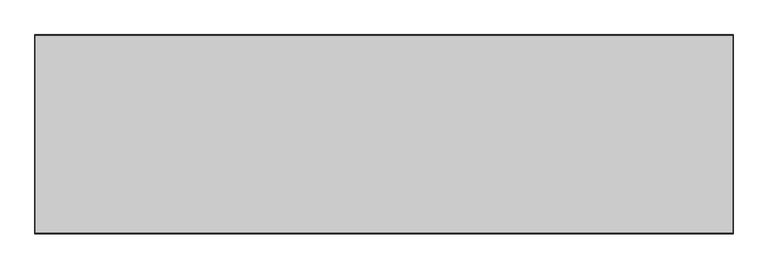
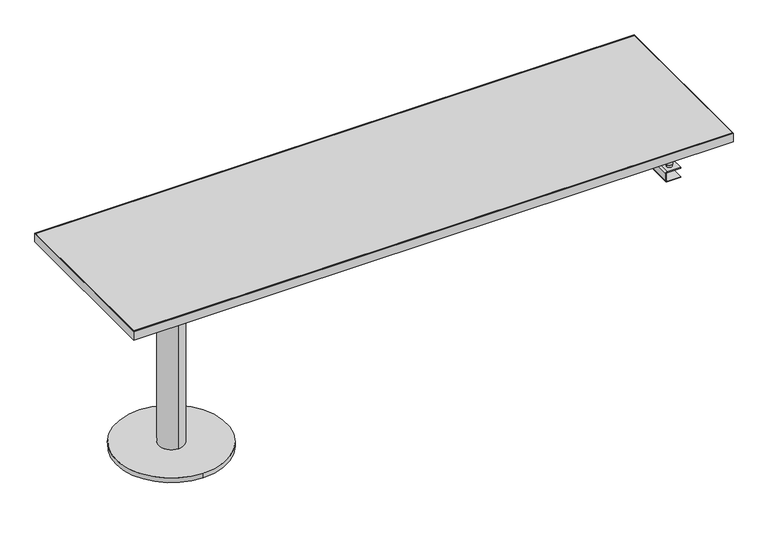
"""IFC4 building model written with IfcOpenShell, lengths in millimetres: furniture geometry, Steelcase Coalesse - Topo - Desktop - Freestanding Straight Ancillary : 84W x 24D - Left - Flat Edge."""

from ifc_helpers import new_model, si_unit, frame, origin, place, context, project, spatial, polyline, circle_curve, outline, extrude, source, transform, mapped, element, save
from ifc_brep_helpers import plane_surface, cylinder_surface, revolved_surface, advanced_brep


def furniture_b3126ded(model_context):
    return source(origin(), model_context, "Body", "SolidModel", [
        advanced_brep(
        [(309.626, -501.6500363, 16.8148), (309.626, -107.9500363, 16.8148), (309.626, -260.3500363, 16.8148), (309.626, -349.2500363, 16.8148), (309.626, -501.6500363, 0.0), (309.626, -107.9500363, 0.0), (309.626, -349.2500363, 635.0), (309.626, -260.3500363, 635.0), (309.626, -269.8509568, 635.0), (309.626, -339.7491159, 635.0), (309.626, -339.7491159, 688.975), (309.626, -269.8509568, 688.975), (411.2261938, -203.2000242, 692.15), (208.0258062, -203.2000242, 692.15), (208.0258062, -406.4000484, 692.15), (411.2261938, -406.4000484, 692.15), (411.2261938, -203.2000242, 688.975), (411.2261938, -406.4000484, 688.975), (208.0258062, -406.4000484, 688.975), (208.0258062, -203.2000242, 688.975)],
        [
            (0, 1, circle_curve(frame((309.626, -304.8000363, 16.8148), z_axis=(0.0, 0.0, 1.0), x_axis=(0.0, 1.0, 0.0)), 196.85)),
            (1, 0, circle_curve(frame((309.626, -304.8000363, 16.8148), z_axis=(0.0, 0.0, 1.0), x_axis=(0.0, 1.0, 0.0)), 196.85)),
            (2, 3, circle_curve(frame((309.626, -304.8000363, 16.8148), z_axis=(0.0, 0.0, -1.0), x_axis=(0.0, 1.0, 0.0)), 44.45)),
            (3, 2, circle_curve(frame((309.626, -304.8000363, 16.8148), z_axis=(0.0, 0.0, -1.0), x_axis=(0.0, 1.0, 0.0)), 44.45)),
            (4, 5, circle_curve(frame((309.626, -304.8000363, 0.0), z_axis=(0.0, 0.0, -1.0), x_axis=(0.0, 1.0, 0.0)), 196.85)),
            (5, 4, circle_curve(frame((309.626, -304.8000363, 0.0), z_axis=(0.0, 0.0, -1.0), x_axis=(0.0, 1.0, 0.0)), 196.85)),
            (0, 4),
            (5, 1),
            (6, 7, circle_curve(frame((309.626, -304.8000363, 635.0), z_axis=(0.0, 0.0, 1.0), x_axis=(0.0, 1.0, 0.0)), 44.45)),
            (7, 6, circle_curve(frame((309.626, -304.8000363, 635.0), z_axis=(0.0, 0.0, 1.0), x_axis=(0.0, 1.0, 0.0)), 44.45)),
            (8, 9, circle_curve(frame((309.626, -304.8000363, 635.0), z_axis=(0.0, 0.0, -1.0), x_axis=(0.0, 1.0, 0.0)), 34.9490796)),
            (9, 8, circle_curve(frame((309.626, -304.8000363, 635.0), z_axis=(0.0, 0.0, -1.0), x_axis=(0.0, 1.0, 0.0)), 34.9490796)),
            (6, 3),
            (2, 7),
            (10, 9),
            (8, 11),
            (11, 10, circle_curve(frame((309.626, -304.8000363, 688.975), z_axis=(0.0, 0.0, -1.0), x_axis=(0.0, 1.0, 0.0)), 34.9490796)),
            (10, 11, circle_curve(frame((309.626, -304.8000363, 688.975), z_axis=(0.0, 0.0, -1.0), x_axis=(0.0, 1.0, 0.0)), 34.9490796)),
            (12, 13),
            (13, 14),
            (14, 15),
            (15, 12),
            (16, 17),
            (17, 18),
            (18, 19),
            (19, 16),
            (12, 16),
            (19, 13),
            (18, 14),
            (17, 15),
        ],
        [
            plane_surface(frame((309.626, -107.9500363, 16.8148), z_axis=(0.0, 0.0, 1.0), x_axis=(-1.0, 0.0, 0.0))),
            plane_surface(frame((309.626, -107.9500363, 0.0), z_axis=(0.0, 0.0, -1.0), x_axis=(1.0, 0.0, 0.0))),
            cylinder_surface(frame((309.626, -304.8000363, 0.0), z_axis=(0.0, 0.0, 1.0), x_axis=(0.0, 1.0, 0.0)), 196.85),
            plane_surface(frame((309.626, -260.3500363, 635.0), z_axis=(0.0, 0.0, 1.0), x_axis=(-1.0, 0.0, 0.0))),
            cylinder_surface(frame((309.626, -304.8000363, 0.0), z_axis=(0.0, 0.0, 1.0), x_axis=(0.0, 1.0, 0.0)), 44.45),
            cylinder_surface(frame((309.626, -304.8000363, 635.0), z_axis=(0.0, 0.0, 1.0), x_axis=(0.0, 1.0, 0.0)), 34.9490796),
            plane_surface(frame((208.0258062, -203.2000242, 692.15), z_axis=(0.0, 0.0, 1.0), x_axis=(-1.0, 0.0, 0.0))),
            plane_surface(frame((208.0258062, -203.2000242, 688.975), z_axis=(0.0, 0.0, -1.0), x_axis=(1.0, 0.0, 0.0))),
            plane_surface(frame((411.2261938, -203.2000242, 692.15), z_axis=(0.0, 1.0, 0.0), x_axis=(0.0, 0.0, -1.0))),
            plane_surface(frame((208.0258062, -203.2000242, 692.15), z_axis=(-1.0, 0.0, 0.0), x_axis=(0.0, 0.0, -1.0))),
            plane_surface(frame((208.0258062, -406.4000484, 692.15), z_axis=(0.0, -1.0, 0.0), x_axis=(0.0, 0.0, -1.0))),
            plane_surface(frame((411.2261938, -406.4000484, 692.15), z_axis=(1.0, 0.0, 0.0), x_axis=(0.0, 0.0, -1.0))),
        ],
        [
            (0, [[1, 2], [3, 4]]),
            (1, [[5, 6]]),
            (2, [[-1, 7, -6, 8]]),
            (2, [[-2, -8, -5, -7]]),
            (3, [[9, 10], [11, 12]]),
            (4, [[-9, 13, -3, 14]]),
            (4, [[-10, -14, -4, -13]]),
            (5, [[15, -11, 16, 17]]),
            (5, [[-15, 18, -16, -12]]),
            (6, [[19, 20, 21, 22]]),
            (7, [[23, 24, 25, 26], [-17, -18]]),
            (8, [[-19, 27, -26, 28]]),
            (9, [[-20, -28, -25, 29]]),
            (10, [[-21, -29, -24, 30]]),
            (11, [[-22, -30, -23, -27]]),
        ],
    ),
        extrude(outline(polyline([(2132.583783, -3.1750242), (2132.583783, -606.4250484), (1.016217, -606.4250484), (1.016217, -3.1750242), (2132.583783, -3.1750242)])), frame((0.0, 0.0, 692.15), z_axis=(0.0, 0.0, 1.0), x_axis=(1.0, 0.0, 0.0)), (0.0, 0.0, 1.0), 31.75),
        extrude(outline(polyline([(2133.6, 0.0), (2133.6, -609.6), (0.0, -609.6), (0.0, 0.0), (2133.6, 0.0)]), holes=[polyline([(2132.583783, -3.1750242), (1.016217, -3.1750242), (1.016217, -606.4250484), (2132.583783, -606.4250484), (2132.583783, -3.1750242)])]), frame((0.0, 0.0, 692.15), z_axis=(0.0, 0.0, 1.0), x_axis=(1.0, 0.0, 0.0)), (0.0, 0.0, 1.0), 31.75),
        extrude(outline(polyline([(-109.2200048, 691.1168589), (-127.2794, 691.1168589), (-127.2794, 682.2694), (-171.1706, 682.2694), (-171.1706, 691.1168589), (-189.2300194, 691.1168589), (-189.2300194, 692.15), (-170.18, 692.15), (-170.18, 683.304655), (-128.27, 683.304655), (-128.27, 692.15), (-109.2200048, 692.15), (-109.2200048, 691.1168589)])), frame((57.0738, 0.0, 0.0), z_axis=(1.0, 0.0, 0.0), x_axis=(0.0, 1.0, 0.0)), (0.0, 0.0, 1.0), 2019.4523581),
        extrude(outline(polyline([(-564.8960426, 691.1168589), (-564.8960426, 692.15), (-545.8460475, 692.15), (-545.8460475, 683.304655), (-503.9360475, 683.304655), (-503.9360475, 692.15), (-484.8860281, 692.15), (-484.8860281, 691.1168589), (-502.9454475, 691.1168589), (-502.9454475, 682.2694), (-546.8366475, 682.2694), (-546.8366475, 691.1168589), (-564.8960426, 691.1168589)])), frame((57.0738, 0.0, 0.0), z_axis=(1.0, 0.0, 0.0), x_axis=(0.0, 1.0, 0.0)), (0.0, 0.0, 1.0), 2019.4523581),
        advanced_brep(
        [(2025.6500969, -267.5128138, 692.15), (1962.1499031, -267.5128138, 692.15), (1962.1499031, -331.0127895, 692.15), (2025.6500969, -331.0127895, 692.15), (2025.6500969, -267.5128138, 688.975), (2025.6500969, -331.0127895, 688.975), (1962.1499031, -331.0127895, 688.975), (1962.1499031, -267.5128138, 688.975), (1993.9, -318.3128016, 688.975), (1993.9, -280.2128016, 688.975), (1993.9, -318.3128016, 655.6248), (1993.9, -280.2128016, 655.6248), (1993.9, -310.4626736, 655.6248), (1993.9, -288.0629297, 655.6248), (1993.9, -310.4626736, 621.2586), (1993.9, -288.0629297, 621.2586), (1993.9, -314.5105403, 621.2586), (1993.9, -284.015063, 621.2586), (1993.9, -314.5105403, 615.1626), (1993.9, -284.015063, 615.1626), (1993.9, -311.9628016, 615.1626), (1993.9, -286.5628016, 615.1626), (1993.9, -311.9628016, 609.4984), (1993.9, -286.5628016, 609.4984)],
        [
            (0, 1),
            (1, 2),
            (2, 3),
            (3, 0),
            (4, 5),
            (5, 6),
            (6, 7),
            (7, 4),
            (8, 9, circle_curve(frame((1993.9, -299.2628016, 688.975), z_axis=(0.0, 0.0, 1.0), x_axis=(0.0, 1.0, 0.0)), 19.05)),
            (9, 8, circle_curve(frame((1993.9, -299.2628016, 688.975), z_axis=(0.0, 0.0, 1.0), x_axis=(0.0, 1.0, 0.0)), 19.05)),
            (0, 4),
            (7, 1),
            (6, 2),
            (5, 3),
            (10, 11, circle_curve(frame((1993.9, -299.2628016, 655.6248), z_axis=(0.0, 0.0, -1.0), x_axis=(0.0, 1.0, 0.0)), 19.05)),
            (11, 10, circle_curve(frame((1993.9, -299.2628016, 655.6248), z_axis=(0.0, 0.0, -1.0), x_axis=(0.0, 1.0, 0.0)), 19.05)),
            (12, 13, circle_curve(frame((1993.9, -299.2628016, 655.6248), z_axis=(0.0, 0.0, 1.0), x_axis=(0.0, 1.0, 0.0)), 11.1998719)),
            (13, 12, circle_curve(frame((1993.9, -299.2628016, 655.6248), z_axis=(0.0, 0.0, 1.0), x_axis=(0.0, 1.0, 0.0)), 11.1998719)),
            (11, 9),
            (8, 10),
            (12, 14),
            (14, 15, circle_curve(frame((1993.9, -299.2628016, 621.2586), z_axis=(0.0, 0.0, 1.0), x_axis=(0.0, 1.0, 0.0)), 11.1998719)),
            (15, 13),
            (15, 14, circle_curve(frame((1993.9, -299.2628016, 621.2586), z_axis=(0.0, 0.0, 1.0), x_axis=(0.0, 1.0, 0.0)), 11.1998719)),
            (16, 17, circle_curve(frame((1993.9, -299.2628016, 621.2586), z_axis=(0.0, 0.0, 1.0), x_axis=(0.0, 1.0, 0.0)), 15.2477387)),
            (17, 16, circle_curve(frame((1993.9, -299.2628016, 621.2586), z_axis=(0.0, 0.0, 1.0), x_axis=(0.0, 1.0, 0.0)), 15.2477387)),
            (18, 19, circle_curve(frame((1993.9, -299.2628016, 615.1626), z_axis=(0.0, 0.0, -1.0), x_axis=(0.0, 1.0, 0.0)), 15.2477387)),
            (19, 18, circle_curve(frame((1993.9, -299.2628016, 615.1626), z_axis=(0.0, 0.0, -1.0), x_axis=(0.0, 1.0, 0.0)), 15.2477387)),
            (20, 21, circle_curve(frame((1993.9, -299.2628016, 615.1626), z_axis=(0.0, 0.0, 1.0), x_axis=(0.0, 1.0, 0.0)), 12.7)),
            (21, 20, circle_curve(frame((1993.9, -299.2628016, 615.1626), z_axis=(0.0, 0.0, 1.0), x_axis=(0.0, 1.0, 0.0)), 12.7)),
            (16, 18),
            (19, 17),
            (22, 23, circle_curve(frame((1993.9, -299.2628016, 609.4984), z_axis=(0.0, 0.0, -1.0), x_axis=(0.0, 1.0, 0.0)), 12.7)),
            (23, 22, circle_curve(frame((1993.9, -299.2628016, 609.4984), z_axis=(0.0, 0.0, -1.0), x_axis=(0.0, 1.0, 0.0)), 12.7)),
            (23, 21),
            (20, 22),
        ],
        [
            plane_surface(frame((1962.1499031, -267.5128138, 692.15), z_axis=(0.0, 0.0, 1.0), x_axis=(-1.0, 0.0, 0.0))),
            plane_surface(frame((1962.1499031, -267.5128138, 688.975), z_axis=(0.0, 0.0, -1.0), x_axis=(1.0, 0.0, 0.0))),
            plane_surface(frame((2025.6500969, -267.5128138, 692.15), z_axis=(0.0, 1.0, 0.0), x_axis=(0.0, 0.0, -1.0))),
            plane_surface(frame((1962.1499031, -267.5128138, 692.15), z_axis=(-1.0, 0.0, 0.0), x_axis=(0.0, 0.0, -1.0))),
            plane_surface(frame((1962.1499031, -331.0127895, 692.15), z_axis=(0.0, -1.0, 0.0), x_axis=(0.0, 0.0, -1.0))),
            plane_surface(frame((2025.6500969, -331.0127895, 692.15), z_axis=(1.0, 0.0, 0.0), x_axis=(0.0, 0.0, -1.0))),
            plane_surface(frame((1993.9, -280.2128016, 655.6248), z_axis=(0.0, 0.0, -1.0), x_axis=(1.0, 0.0, 0.0))),
            cylinder_surface(frame((1993.9, -299.2628016, 655.6248), z_axis=(0.0, 0.0, 1.0), x_axis=(0.0, 1.0, 0.0)), 19.05),
            cylinder_surface(frame((1993.9, -299.2628016, 621.2586), z_axis=(0.0, 0.0, 1.0), x_axis=(0.0, 1.0, 0.0)), 11.1998719),
            plane_surface(frame((1993.9, -284.015063, 621.2586), z_axis=(0.0, 0.0, 1.0), x_axis=(-1.0, 0.0, 0.0))),
            plane_surface(frame((1993.9, -284.015063, 615.1626), z_axis=(0.0, 0.0, -1.0), x_axis=(1.0, 0.0, 0.0))),
            cylinder_surface(frame((1993.9, -299.2628016, 615.1626), z_axis=(0.0, 0.0, 1.0), x_axis=(0.0, 1.0, 0.0)), 15.2477387),
            plane_surface(frame((1993.9, -286.5628016, 609.4984), z_axis=(0.0, 0.0, -1.0), x_axis=(1.0, 0.0, 0.0))),
            cylinder_surface(frame((1993.9, -299.2628016, 609.4984), z_axis=(0.0, 0.0, 1.0), x_axis=(0.0, 1.0, 0.0)), 12.7),
        ],
        [
            (0, [[1, 2, 3, 4]]),
            (1, [[5, 6, 7, 8], [9, 10]]),
            (2, [[-1, 11, -8, 12]]),
            (3, [[-2, -12, -7, 13]]),
            (4, [[-3, -13, -6, 14]]),
            (5, [[-4, -14, -5, -11]]),
            (6, [[15, 16], [17, 18]]),
            (7, [[-16, 19, -9, 20]]),
            (7, [[-15, -20, -10, -19]]),
            (8, [[21, 22, 23, -17]]),
            (8, [[-21, -18, -23, 24]]),
            (9, [[25, 26], [-22, -24]]),
            (10, [[27, 28], [29, 30]]),
            (11, [[-25, 31, -28, 32]]),
            (11, [[-26, -32, -27, -31]]),
            (12, [[33, 34]]),
            (13, [[-34, 35, -29, 36]]),
            (13, [[-33, -36, -30, -35]]),
        ],
    ),
        advanced_brep(
        [(1933.0422055, -550.2910475, 612.0384), (1927.9622153, -550.2910475, 606.9584098), (1927.9622153, -550.2910475, 580.2884171), (1933.0422323, -550.2910475, 575.2084), (1981.3019827, -550.2910475, 575.2084), (1981.3019827, -550.2910475, 577.7484), (1933.0419827, -550.2910475, 577.7484), (1930.5021765, -550.2910475, 580.2882062), (1930.5021765, -550.2910475, 606.9584098), (1933.0421667, -550.2910475, 609.4984), (1981.3019827, -550.2910475, 609.4984), (1981.3019827, -550.2910475, 612.0384), (1933.0422055, -124.840999, 612.0384), (1981.3019827, -124.840999, 612.0384), (1981.3019827, -124.840999, 609.4984), (1933.0421667, -124.840999, 609.4984), (1930.5021765, -124.840999, 606.9584098), (1930.5021765, -124.840999, 580.2882062), (1933.0419827, -124.840999, 577.7484), (1981.3019827, -124.840999, 577.7484), (1981.3019827, -124.840999, 575.2084), (1933.0422323, -124.840999, 575.2084), (1927.9622153, -124.840999, 580.2884171), (1927.9622153, -124.840999, 606.9584098), (1981.3019827, -180.7210184, 575.2084), (1936.851789, -180.7210184, 575.2084), (1936.851789, -493.3950291, 575.2084), (1981.3019827, -493.3950291, 575.2084), (1981.3019827, -493.3950291, 577.7484), (1981.3019827, -180.7210184, 577.7484), (1936.851789, -493.3950291, 577.7484), (1936.851789, -180.7210184, 577.7484), (1981.3019827, -180.7210184, 609.4984), (1936.851789, -180.7210184, 609.4984), (1936.851789, -493.3950291, 609.4984), (1981.3019827, -493.3950291, 609.4984), (1981.3019827, -493.3950291, 612.0384), (1981.3019827, -180.7210184, 612.0384), (1936.851789, -493.3950291, 612.0384), (1936.851789, -180.7210184, 612.0384), (1965.553789, -523.9179378, 612.0384), (1946.249789, -523.9179378, 612.0384), (1965.553789, -150.1981097, 612.0384), (1946.249789, -150.1981097, 612.0384), (1987.6523703, -498.4749516, 682.2694), (1924.151789, -498.4749516, 682.2694), (1917.801789, -504.8249516, 682.2694), (1917.801789, -543.010924, 682.2694), (1925.1925794, -549.2750484, 682.2694), (1986.6115798, -549.2750484, 682.2694), (1994.001789, -542.925, 682.2694), (1994.001789, -504.9108755, 682.2694), (1987.6523703, -175.6410959, 682.2694), (1994.001789, -169.2051719, 682.2694), (1994.001789, -131.1910475, 682.2694), (1986.6115798, -124.840999, 682.2694), (1925.1925794, -124.840999, 682.2694), (1917.801789, -131.1051235, 682.2694), (1917.801789, -169.2910959, 682.2694), (1924.151789, -175.6410959, 682.2694), (1987.6523703, -498.4749516, 679.0944), (1994.001789, -504.9108755, 679.0944), (1994.001789, -542.925, 679.0944), (1986.6115798, -549.2750484, 679.0944), (1925.1925794, -549.2750484, 679.0944), (1917.801789, -543.010924, 679.0944), (1917.801789, -504.8249516, 679.0944), (1924.151789, -498.4749516, 679.0944), (1967.077789, -523.9179378, 679.0944), (1944.725789, -523.9179378, 679.0944), (1987.6523703, -175.6410959, 679.0944), (1924.151789, -175.6410959, 679.0944), (1917.801789, -169.2910959, 679.0944), (1917.801789, -131.1051235, 679.0944), (1925.1925794, -124.840999, 679.0944), (1986.6115798, -124.840999, 679.0944), (1994.001789, -131.1910475, 679.0944), (1994.001789, -169.2051719, 679.0944), (1967.077789, -150.1981097, 679.0944), (1944.725789, -150.1981097, 679.0944), (1946.249789, -523.9179378, 621.2586), (1965.553789, -523.9179378, 621.2586), (1946.249789, -150.1981097, 621.2586), (1965.553789, -150.1981097, 621.2586), (1967.077789, -523.9179378, 621.2586), (1944.725789, -523.9179378, 621.2586), (1967.077789, -150.1981097, 621.2586), (1944.725789, -150.1981097, 621.2586)],
        [
            (0, 1, circle_curve(frame((1933.0422055, -550.2910475, 606.9584098), z_axis=(0.0, -1.0, 0.0), x_axis=(1.0, 0.0, 0.0)), 5.0799902)),
            (1, 2),
            (2, 3, circle_curve(frame((1933.0422323, -550.2910475, 580.2884171), z_axis=(0.0, -1.0, 0.0), x_axis=(1.0, 0.0, 0.0)), 5.0800171)),
            (3, 4),
            (4, 5),
            (5, 6),
            (6, 7, circle_curve(frame((1933.0419827, -550.2910475, 580.2882062), z_axis=(0.0, 1.0, 0.0), x_axis=(1.0, 0.0, 0.0)), 2.5398062)),
            (7, 8),
            (8, 9, circle_curve(frame((1933.0421667, -550.2910475, 606.9584098), z_axis=(0.0, 1.0, 0.0), x_axis=(1.0, 0.0, 0.0)), 2.5399902)),
            (9, 10),
            (10, 11),
            (11, 0),
            (12, 13),
            (13, 14),
            (14, 15),
            (15, 16, circle_curve(frame((1933.0421667, -124.840999, 606.9584098), z_axis=(0.0, -1.0, 0.0), x_axis=(1.0, 0.0, 0.0)), 2.5399902)),
            (16, 17),
            (17, 18, circle_curve(frame((1933.0419827, -124.840999, 580.2882062), z_axis=(0.0, -1.0, 0.0), x_axis=(1.0, 0.0, 0.0)), 2.5398062)),
            (18, 19),
            (19, 20),
            (20, 21),
            (21, 22, circle_curve(frame((1933.0422323, -124.840999, 580.2884171), z_axis=(0.0, 1.0, 0.0), x_axis=(1.0, 0.0, 0.0)), 5.0800171)),
            (22, 23),
            (23, 12, circle_curve(frame((1933.0422055, -124.840999, 606.9584098), z_axis=(0.0, 1.0, 0.0), x_axis=(1.0, 0.0, 0.0)), 5.0799902)),
            (0, 12),
            (23, 1),
            (22, 2),
            (21, 3),
            (20, 24),
            (24, 25),
            (25, 26),
            (26, 27),
            (27, 4),
            (27, 28),
            (28, 5),
            (19, 29),
            (29, 24),
            (28, 30),
            (30, 31),
            (31, 29),
            (18, 6),
            (17, 7),
            (16, 8),
            (15, 9),
            (14, 32),
            (32, 33),
            (33, 34),
            (34, 35),
            (35, 10),
            (35, 36),
            (36, 11),
            (13, 37),
            (37, 32),
            (36, 38),
            (38, 39),
            (39, 37),
            (40, 41, circle_curve(frame((1955.901789, -523.9179378, 612.0384), z_axis=(0.0, 0.0, -1.0), x_axis=(1.0, 0.0, 0.0)), 9.652)),
            (41, 40, circle_curve(frame((1955.901789, -523.9179378, 612.0384), z_axis=(0.0, 0.0, -1.0), x_axis=(1.0, 0.0, 0.0)), 9.652)),
            (42, 43, circle_curve(frame((1955.901789, -150.1981097, 612.0384), z_axis=(0.0, 0.0, -1.0), x_axis=(1.0, 0.0, 0.0)), 9.652)),
            (43, 42, circle_curve(frame((1955.901789, -150.1981097, 612.0384), z_axis=(0.0, 0.0, -1.0), x_axis=(1.0, 0.0, 0.0)), 9.652)),
            (31, 25),
            (39, 33),
            (26, 30),
            (34, 38),
            (44, 45),
            (45, 46, circle_curve(frame((1924.151789, -504.8249516, 682.2694), z_axis=(0.0, 0.0, 1.0), x_axis=(1.0, 0.0, 0.0)), 6.35)),
            (46, 47),
            (47, 48, circle_curve(frame((1924.151789, -543.010924, 682.2694), z_axis=(0.0, 0.0, 1.0), x_axis=(1.0, 0.0, 0.0)), 6.35)),
            (48, 49),
            (49, 50, circle_curve(frame((1987.6523703, -543.010924, 682.2694), z_axis=(0.0, 0.0, 1.0), x_axis=(1.0, 0.0, 0.0)), 6.35)),
            (50, 51),
            (51, 44, circle_curve(frame((1987.6523703, -504.8249516, 682.2694), z_axis=(0.0, 0.0, 1.0), x_axis=(1.0, 0.0, 0.0)), 6.35)),
            (52, 53, circle_curve(frame((1987.6523703, -169.2910959, 682.2694), z_axis=(0.0, 0.0, 1.0), x_axis=(1.0, 0.0, 0.0)), 6.35)),
            (53, 54),
            (54, 55, circle_curve(frame((1987.6523703, -131.1051235, 682.2694), z_axis=(0.0, 0.0, 1.0), x_axis=(1.0, 0.0, 0.0)), 6.35)),
            (55, 56),
            (56, 57, circle_curve(frame((1924.151789, -131.1051235, 682.2694), z_axis=(0.0, 0.0, 1.0), x_axis=(1.0, 0.0, 0.0)), 6.35)),
            (57, 58),
            (58, 59, circle_curve(frame((1924.151789, -169.2910959, 682.2694), z_axis=(0.0, 0.0, 1.0), x_axis=(1.0, 0.0, 0.0)), 6.35)),
            (59, 52),
            (60, 61, circle_curve(frame((1987.6523703, -504.8249516, 679.0944), z_axis=(0.0, 0.0, -1.0), x_axis=(1.0, 0.0, 0.0)), 6.35)),
            (61, 62),
            (62, 63, circle_curve(frame((1987.6523703, -543.010924, 679.0944), z_axis=(0.0, 0.0, -1.0), x_axis=(1.0, 0.0, 0.0)), 6.35)),
            (63, 64),
            (64, 65, circle_curve(frame((1924.151789, -543.010924, 679.0944), z_axis=(0.0, 0.0, -1.0), x_axis=(1.0, 0.0, 0.0)), 6.35)),
            (65, 66),
            (66, 67, circle_curve(frame((1924.151789, -504.8249516, 679.0944), z_axis=(0.0, 0.0, -1.0), x_axis=(1.0, 0.0, 0.0)), 6.35)),
            (67, 60),
            (68, 69, circle_curve(frame((1955.901789, -523.9179378, 679.0944), z_axis=(0.0, 0.0, 1.0), x_axis=(1.0, 0.0, 0.0)), 11.176)),
            (69, 68, circle_curve(frame((1955.901789, -523.9179378, 679.0944), z_axis=(0.0, 0.0, 1.0), x_axis=(1.0, 0.0, 0.0)), 11.176)),
            (70, 71),
            (71, 72, circle_curve(frame((1924.151789, -169.2910959, 679.0944), z_axis=(0.0, 0.0, -1.0), x_axis=(1.0, 0.0, 0.0)), 6.35)),
            (72, 73),
            (73, 74, circle_curve(frame((1924.151789, -131.1051235, 679.0944), z_axis=(0.0, 0.0, -1.0), x_axis=(1.0, 0.0, 0.0)), 6.35)),
            (74, 75),
            (75, 76, circle_curve(frame((1987.6523703, -131.1051235, 679.0944), z_axis=(0.0, 0.0, -1.0), x_axis=(1.0, 0.0, 0.0)), 6.35)),
            (76, 77),
            (77, 70, circle_curve(frame((1987.6523703, -169.2910959, 679.0944), z_axis=(0.0, 0.0, -1.0), x_axis=(1.0, 0.0, 0.0)), 6.35)),
            (78, 79, circle_curve(frame((1955.901789, -150.1981097, 679.0944), z_axis=(0.0, 0.0, 1.0), x_axis=(1.0, 0.0, 0.0)), 11.176)),
            (79, 78, circle_curve(frame((1955.901789, -150.1981097, 679.0944), z_axis=(0.0, 0.0, 1.0), x_axis=(1.0, 0.0, 0.0)), 11.176)),
            (44, 60),
            (67, 45),
            (66, 46),
            (65, 47),
            (64, 48),
            (63, 49),
            (62, 50),
            (61, 51),
            (52, 70),
            (77, 53),
            (76, 54),
            (75, 55),
            (74, 56),
            (73, 57),
            (72, 58),
            (71, 59),
            (80, 41),
            (40, 81),
            (81, 80, circle_curve(frame((1955.901789, -523.9179378, 621.2586), z_axis=(0.0, 0.0, -1.0), x_axis=(1.0, 0.0, 0.0)), 9.652)),
            (80, 81, circle_curve(frame((1955.901789, -523.9179378, 621.2586), z_axis=(0.0, 0.0, -1.0), x_axis=(1.0, 0.0, 0.0)), 9.652)),
            (82, 43),
            (42, 83),
            (83, 82, circle_curve(frame((1955.901789, -150.1981097, 621.2586), z_axis=(0.0, 0.0, -1.0), x_axis=(1.0, 0.0, 0.0)), 9.652)),
            (82, 83, circle_curve(frame((1955.901789, -150.1981097, 621.2586), z_axis=(0.0, 0.0, -1.0), x_axis=(1.0, 0.0, 0.0)), 9.652)),
            (84, 85, circle_curve(frame((1955.901789, -523.9179378, 621.2586), z_axis=(0.0, 0.0, -1.0), x_axis=(1.0, 0.0, 0.0)), 11.176)),
            (85, 84, circle_curve(frame((1955.901789, -523.9179378, 621.2586), z_axis=(0.0, 0.0, -1.0), x_axis=(1.0, 0.0, 0.0)), 11.176)),
            (86, 87, circle_curve(frame((1955.901789, -150.1981097, 621.2586), z_axis=(0.0, 0.0, -1.0), x_axis=(1.0, 0.0, 0.0)), 11.176)),
            (87, 86, circle_curve(frame((1955.901789, -150.1981097, 621.2586), z_axis=(0.0, 0.0, -1.0), x_axis=(1.0, 0.0, 0.0)), 11.176)),
            (85, 69),
            (68, 84),
            (87, 79),
            (78, 86),
        ],
        [
            plane_surface(frame((1938.1221957, -550.2910475, 606.9584098), z_axis=(0.0, -1.0, 0.0), x_axis=(0.0, 0.0, 1.0))),
            plane_surface(frame((1938.1221957, -124.840999, 606.9584098), z_axis=(0.0, 1.0, 0.0), x_axis=(0.0, 0.0, -1.0))),
            cylinder_surface(frame((1933.0422055, -124.840999, 606.9584098), z_axis=(0.0, -1.0, 0.0), x_axis=(1.0, 0.0, 0.0)), 5.0799902),
            plane_surface(frame((1927.9622153, -550.2910475, 606.9584098), z_axis=(-1.0, 0.0, 0.0), x_axis=(0.0, 1.0, 0.0))),
            cylinder_surface(frame((1933.0422323, -124.840999, 580.2884171), z_axis=(0.0, -1.0, 0.0), x_axis=(1.0, 0.0, 0.0)), 5.0800171),
            plane_surface(frame((1933.0422323, -550.2910475, 575.2084), z_axis=(0.0, 0.0, -1.0), x_axis=(0.0, 1.0, 0.0))),
            plane_surface(frame((1981.3019827, -550.2910475, 575.2084), z_axis=(1.0, 0.0, 0.0), x_axis=(0.0, 1.0, 0.0))),
            plane_surface(frame((1981.3019827, -550.2910475, 577.7484), z_axis=(0.0, 0.0, 1.0), x_axis=(0.0, 1.0, 0.0))),
            revolved_surface(polyline([(1935.5817889, -124.840999, 580.2882062), (1935.5817889, -550.2910475, 580.2882062)]), (1933.0419827, -124.840999, 580.2882062), (0.0, 1.0, 0.0)),
            plane_surface(frame((1930.5021765, -550.2910475, 580.2882062), z_axis=(1.0, 0.0, 0.0), x_axis=(0.0, 1.0, 0.0))),
            revolved_surface(polyline([(1935.5821569, -124.840999, 606.9584098), (1935.5821569, -550.2910475, 606.9584098)]), (1933.0421667, -124.840999, 606.9584098), (0.0, 1.0, 0.0)),
            plane_surface(frame((1933.0421667, -550.2910475, 609.4984), z_axis=(0.0, 0.0, -1.0), x_axis=(0.0, 1.0, 0.0))),
            plane_surface(frame((1981.3019827, -550.2910475, 609.4984), z_axis=(1.0, 0.0, 0.0), x_axis=(0.0, 1.0, 0.0))),
            plane_surface(frame((1981.3019827, -550.2910475, 612.0384), z_axis=(0.0, 0.0, 1.0), x_axis=(0.0, 1.0, 0.0))),
            plane_surface(frame((1936.851789, -180.7210184, 575.2084), z_axis=(0.0, -1.0, 0.0), x_axis=(0.0, 0.0, 1.0))),
            plane_surface(frame((1981.3019827, -493.3950291, 575.2084), z_axis=(0.0, 1.0, 0.0), x_axis=(0.0, 0.0, 1.0))),
            plane_surface(frame((1936.851789, -493.3950291, 575.2084), z_axis=(1.0, 0.0, 0.0), x_axis=(0.0, 0.0, 1.0))),
            plane_surface(frame((1924.151789, -498.4749516, 682.2694), z_axis=(0.0, 0.0, 1.0), x_axis=(-1.0, 0.0, 0.0))),
            plane_surface(frame((1924.151789, -498.4749516, 679.0944), z_axis=(0.0, 0.0, -1.0), x_axis=(1.0, 0.0, 0.0))),
            plane_surface(frame((1987.6523703, -498.4749516, 682.2694), z_axis=(0.0, 1.0, 0.0), x_axis=(0.0, 0.0, -1.0))),
            cylinder_surface(frame((1924.151789, -504.8249516, 679.0944), z_axis=(0.0, 0.0, 1.0), x_axis=(1.0, 0.0, 0.0)), 6.35),
            plane_surface(frame((1917.801789, -504.8249516, 682.2694), z_axis=(-1.0, 0.0, 0.0), x_axis=(0.0, 0.0, -1.0))),
            cylinder_surface(frame((1924.151789, -543.010924, 679.0944), z_axis=(0.0, 0.0, 1.0), x_axis=(1.0, 0.0, 0.0)), 6.35),
            plane_surface(frame((1925.1925794, -549.2750484, 682.2694), z_axis=(0.0, -1.0, 0.0), x_axis=(0.0, 0.0, -1.0))),
            cylinder_surface(frame((1987.6523703, -543.010924, 679.0944), z_axis=(0.0, 0.0, 1.0), x_axis=(1.0, 0.0, 0.0)), 6.35),
            plane_surface(frame((1994.001789, -542.925, 682.2694), z_axis=(1.0, 0.0, 0.0), x_axis=(0.0, 0.0, -1.0))),
            cylinder_surface(frame((1987.6523703, -504.8249516, 679.0944), z_axis=(0.0, 0.0, 1.0), x_axis=(1.0, 0.0, 0.0)), 6.35),
            cylinder_surface(frame((1987.6523703, -169.2910959, 0.0), z_axis=(0.0, 0.0, 1.0), x_axis=(1.0, 0.0, 0.0)), 6.35),
            plane_surface(frame((1994.001789, -169.2051719, 682.2694), z_axis=(1.0, 0.0, 0.0), x_axis=(0.0, 0.0, -1.0))),
            cylinder_surface(frame((1987.6523703, -131.1051235, 0.0), z_axis=(0.0, 0.0, 1.0), x_axis=(1.0, 0.0, 0.0)), 6.35),
            plane_surface(frame((1986.6115798, -124.840999, 682.2694), z_axis=(0.0, 1.0, 0.0), x_axis=(0.0, 0.0, -1.0))),
            cylinder_surface(frame((1924.151789, -131.1051235, 0.0), z_axis=(0.0, 0.0, 1.0), x_axis=(1.0, 0.0, 0.0)), 6.35),
            plane_surface(frame((1917.801789, -131.1051235, 682.2694), z_axis=(-1.0, 0.0, 0.0), x_axis=(0.0, 0.0, -1.0))),
            cylinder_surface(frame((1924.151789, -169.2910959, 0.0), z_axis=(0.0, 0.0, 1.0), x_axis=(1.0, 0.0, 0.0)), 6.35),
            plane_surface(frame((1924.151789, -175.6410959, 682.2694), z_axis=(0.0, -1.0, 0.0), x_axis=(0.0, 0.0, -1.0))),
            cylinder_surface(frame((1955.901789, -523.9179378, 612.0384), z_axis=(0.0, 0.0, 1.0), x_axis=(1.0, 0.0, 0.0)), 9.652),
            cylinder_surface(frame((1955.901789, -150.1981097, 0.0), z_axis=(0.0, 0.0, 1.0), x_axis=(1.0, 0.0, 0.0)), 9.652),
            plane_surface(frame((1967.077789, -523.9179378, 621.2586), z_axis=(0.0, 0.0, -1.0), x_axis=(0.0, -1.0, 0.0))),
            cylinder_surface(frame((1955.901789, -523.9179378, 621.2586), z_axis=(0.0, 0.0, 1.0), x_axis=(1.0, 0.0, 0.0)), 11.176),
            cylinder_surface(frame((1955.901789, -150.1981097, 0.0), z_axis=(0.0, 0.0, 1.0), x_axis=(1.0, 0.0, 0.0)), 11.176),
        ],
        [
            (0, [[1, 2, 3, 4, 5, 6, 7, 8, 9, 10, 11, 12]]),
            (1, [[13, 14, 15, 16, 17, 18, 19, 20, 21, 22, 23, 24]]),
            (2, [[-1, 25, -24, 26]]),
            (3, [[-2, -26, -23, 27]]),
            (4, [[-3, -27, -22, 28]]),
            (5, [[-4, -28, -21, 29, 30, 31, 32, 33]]),
            (6, [[-5, -33, 34, 35]]),
            (6, [[-20, 36, 37, -29]]),
            (7, [[-6, -35, 38, 39, 40, -36, -19, 41]]),
            (8, [[-7, -41, -18, 42]]),
            (9, [[-8, -42, -17, 43]]),
            (10, [[-9, -43, -16, 44]]),
            (11, [[-10, -44, -15, 45, 46, 47, 48, 49]]),
            (12, [[-11, -49, 50, 51]]),
            (12, [[-14, 52, 53, -45]]),
            (13, [[-12, -51, 54, 55, 56, -52, -13, -25], [57, 58], [59, 60]]),
            (14, [[61, -30, -37, -40]]),
            (14, [[62, -46, -53, -56]]),
            (15, [[63, -38, -34, -32]]),
            (15, [[64, -54, -50, -48]]),
            (16, [[-61, -39, -63, -31]]),
            (16, [[-62, -55, -64, -47]]),
            (17, [[65, 66, 67, 68, 69, 70, 71, 72]]),
            (17, [[73, 74, 75, 76, 77, 78, 79, 80]]),
            (18, [[81, 82, 83, 84, 85, 86, 87, 88], [89, 90]]),
            (18, [[91, 92, 93, 94, 95, 96, 97, 98], [99, 100]]),
            (19, [[-65, 101, -88, 102]]),
            (20, [[-66, -102, -87, 103]]),
            (21, [[-67, -103, -86, 104]]),
            (22, [[-68, -104, -85, 105]]),
            (23, [[-69, -105, -84, 106]]),
            (24, [[-70, -106, -83, 107]]),
            (25, [[-71, -107, -82, 108]]),
            (26, [[-72, -108, -81, -101]]),
            (27, [[-73, 109, -98, 110]]),
            (28, [[-74, -110, -97, 111]]),
            (29, [[-75, -111, -96, 112]]),
            (30, [[-76, -112, -95, 113]]),
            (31, [[-77, -113, -94, 114]]),
            (32, [[-78, -114, -93, 115]]),
            (33, [[-79, -115, -92, 116]]),
            (34, [[-80, -116, -91, -109]]),
            (35, [[117, -57, 118, 119]]),
            (35, [[-117, 120, -118, -58]]),
            (36, [[121, -59, 122, 123]]),
            (36, [[-121, 124, -122, -60]]),
            (37, [[125, 126], [-119, -120]]),
            (37, [[127, 128], [-123, -124]]),
            (38, [[-126, 129, -89, 130]]),
            (38, [[-125, -130, -90, -129]]),
            (39, [[-128, 131, -99, 132]]),
            (39, [[-127, -132, -100, -131]]),
        ],
    ),
    ])


if __name__ == "__main__":
    model = new_model("IFC4")
    model_context = context("Model", 3, world=origin())
    ifc_project = project(units=[si_unit("LENGTHUNIT", "METRE", prefix="MILLI")], contexts=[model_context])
    site = spatial("IfcSite", under=ifc_project)
    building = spatial("IfcBuilding", under=site)
    placement = place(None, origin())
    furniture_shape = furniture_b3126ded(model_context)
    element("IfcFurniture", 1, ObjectType="Steelcase Coalesse - Topo - Desktop - Freestanding Straight Ancillary : 84W x 24D - Left - Flat Edge", at=placement, inside=building, context=model_context, shape_type="MappedRepresentation", body=[
        mapped(furniture_shape, transform((0.0, 0.0, 0.0), x_axis=(1.0, 0.0, 0.0), y_axis=(0.0, 1.0, 0.0), z_axis=(0.0, 0.0, 1.0))),
    ])
    save(model, "model.ifc")
